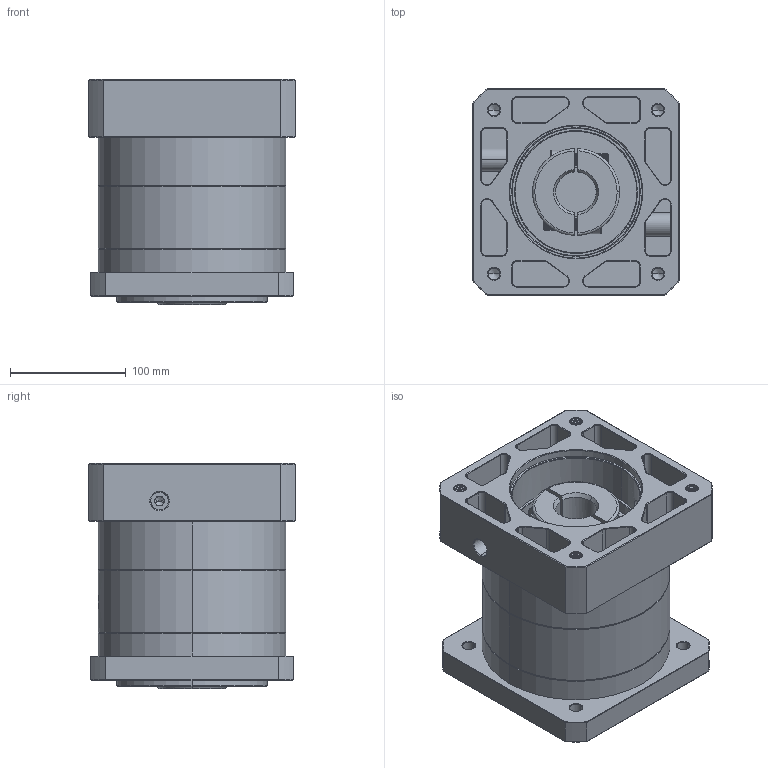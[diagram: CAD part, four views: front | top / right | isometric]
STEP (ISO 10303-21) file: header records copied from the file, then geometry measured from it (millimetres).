
FILE_DESCRIPTION (( 'STEP AP214' ), '1' );
FILE_NAME ('ZF160A-K35-L1-P2-35-114.3-200-M12.step', '2023-09-03T07:01:56', ( '' ), ( '' ), 'SwSTEP 2.0', 'SolidWorks 2016', '' );
FILE_SCHEMA (( 'AUTOMOTIVE_DESIGN' ));
Length unit declared in the file: millimetre
Products named in the file (1): ZF160A-K35-L1-P2-35-114.3-200-M12
Bounding box: 178 x 178 x 194.2 mm (x, y, z)
Volume: 3889241.1 mm3; surface area: 369497.1 mm2
Topology: 6 solids, 6 shells, 2300 faces, 6176 edges, 3988 vertices
Faces by surface type: plane 1100, cylinder 417, bspline 404, cone 359, torus 20
Entity records: 125923 total; most frequent: CARTESIAN_POINT 47834, ORIENTED_EDGE 12296, DIRECTION 9290, EDGE_CURVE 6148, VERTEX_POINT 3988, LINE 3278, VECTOR 3278, AXIS2_PLACEMENT_3D 3006
